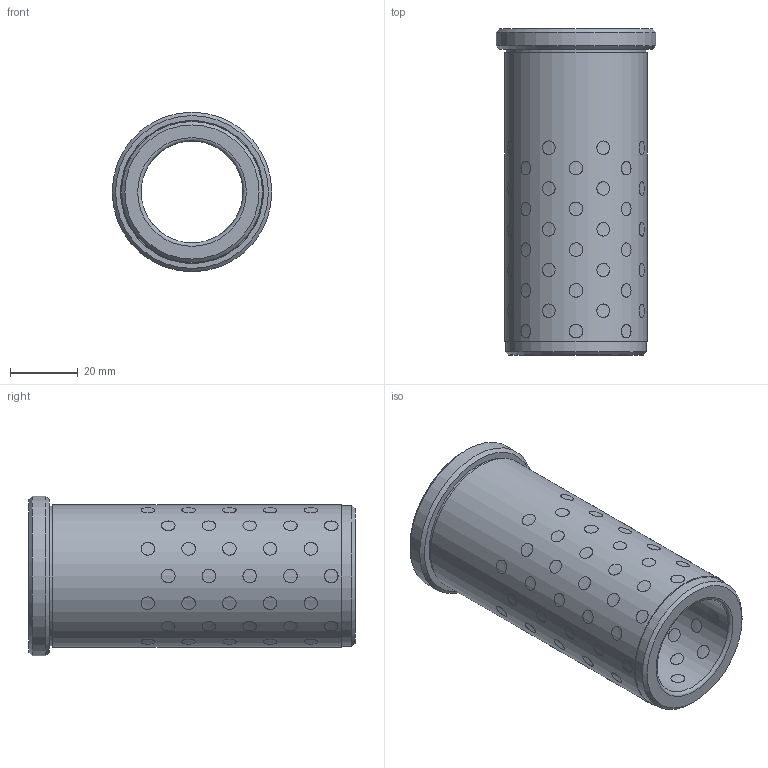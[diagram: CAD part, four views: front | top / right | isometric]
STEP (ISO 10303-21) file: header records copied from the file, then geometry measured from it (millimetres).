
FILE_DESCRIPTION( ( 'STEP AP203' ), '1' );
FILE_NAME( 'D:/Cuma/D30.05/D30.05_3096.step', '2003-01-20T18:27:46', ( ' ' ), ( ' ' ), 'XStep 1.0', ' ', ' ' );
FILE_SCHEMA( ( 'CONFIG_CONTROL_DESIGN' ) );
Length unit declared in the file: metre
Products named in the file (97): 1; 2; 3; 4; 5; 6; 7; 8; 9; 10; 11; 12; 13; 14; 15; 16; 17; 18; 19; 20; 21; 22; 23; 24; 25; 26; 27; 28; 29; 30; 31; 32; 33; 34; 35; 36; 37; 38; 39; 40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
Bounding box: 47 x 96 x 47 mm (x, y, z)
Volume: 73874 mm3; surface area: 33253.5 mm2
Topology: 97 solids, 97 shells, 303 faces, 313 edges, 207 vertices
Faces by surface type: cylinder 293, plane 5, cone 3, torus 2
Full cylindrical faces by diameter (mm): 4 x96, 30 x1, 41 x1, 41.5 x1, 42 x1, 47 x1
Entity records: 18977 total; most frequent: CARTESIAN_POINT 10990, DIRECTION 830, CC_DESIGN_PERSON_AND_ORGANIZATION_ASSIGNMENT 485, AXIS2_PLACEMENT_3D 415, EDGE_LOOP 414, ORIENTED_EDGE 414, FACE_OUTER_BOUND 406, PERSON_AND_ORGANIZATION_ROLE 388
